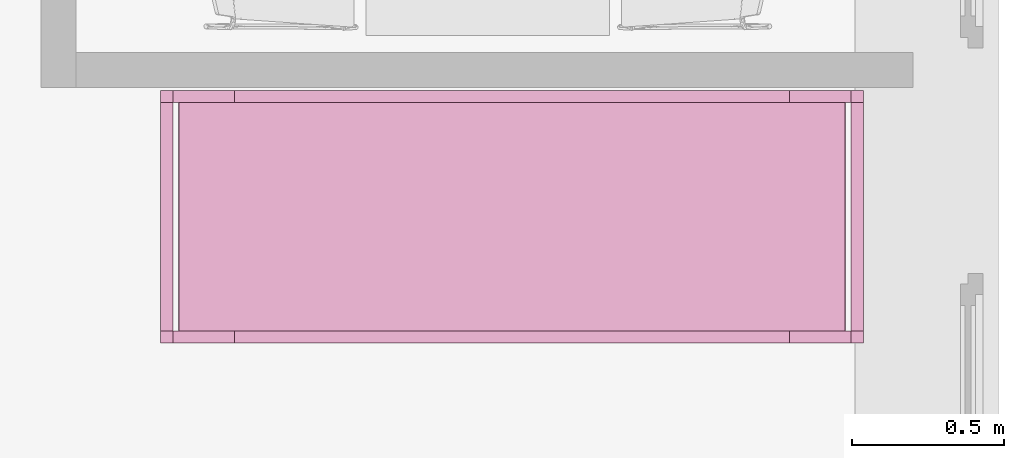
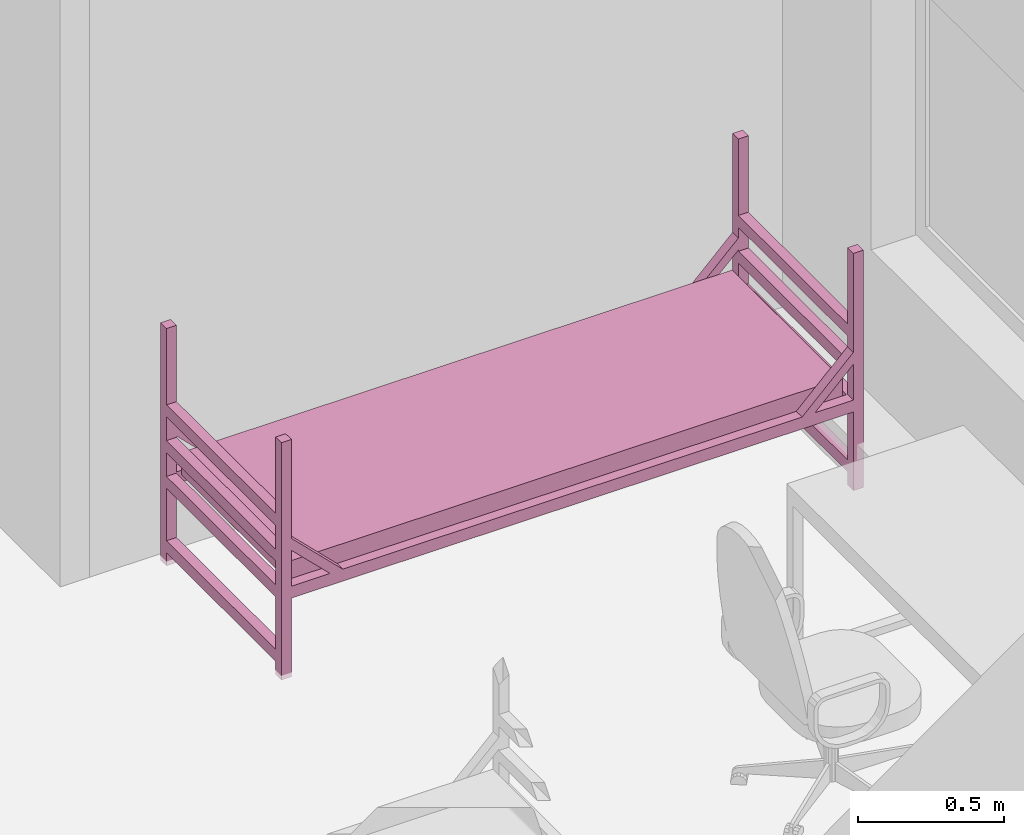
# One storey, part 44 of 48: 1 furnishing.
"""IFC2X3 building model written with IfcOpenShell, lengths in millimetres."""

from ifc_helpers import new_model, entity, si_unit, converted_unit, derived_unit, direction, frame, frame_2d, origin, place, context, subcontext, project, spatial, polyline, circle_curve, parameter, trimmed, segment, composite_curve, rectangle, outline, extrude, source, transform, mapped, material, type_object, type_shapes, element, save


model = new_model("IFC2X3")

# Units and contexts
model_context = context("Model", 3, precision=0.01, world=origin(), true_north=direction((6.12303176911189e-17, 1.0)))
body_context = subcontext(model_context, "Body", "Model", "MODEL_VIEW")
ifc_project = project(units=[si_unit("LENGTHUNIT", "METRE", prefix="MILLI"), si_unit("AREAUNIT", "SQUARE_METRE"), si_unit("VOLUMEUNIT", "CUBIC_METRE"), converted_unit("PLANEANGLEUNIT", "DEGREE", entity("IfcRatioMeasure", 0.0174532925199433), si_unit("PLANEANGLEUNIT", "RADIAN"), dimensions=[0, 0, 0, 0, 0, 0, 0]), si_unit("MASSUNIT", "GRAM", prefix="KILO"), derived_unit("MASSDENSITYUNIT", [(si_unit("MASSUNIT", "GRAM", prefix="KILO"), 1), (si_unit("LENGTHUNIT", "METRE"), -3)]), si_unit("TIMEUNIT", "SECOND"), si_unit("FREQUENCYUNIT", "HERTZ"), si_unit("THERMODYNAMICTEMPERATUREUNIT", "DEGREE_CELSIUS"), derived_unit("THERMALTRANSMITTANCEUNIT", [(si_unit("MASSUNIT", "GRAM", prefix="KILO"), 1), (si_unit("THERMODYNAMICTEMPERATUREUNIT", "KELVIN"), -1), (si_unit("TIMEUNIT", "SECOND"), -3)]), derived_unit("VOLUMETRICFLOWRATEUNIT", [(si_unit("LENGTHUNIT", "METRE"), 3), (si_unit("TIMEUNIT", "SECOND"), -1)]), si_unit("ELECTRICCURRENTUNIT", "AMPERE"), si_unit("ELECTRICVOLTAGEUNIT", "VOLT"), si_unit("POWERUNIT", "WATT"), si_unit("FORCEUNIT", "NEWTON", prefix="KILO"), si_unit("ILLUMINANCEUNIT", "LUX"), si_unit("LUMINOUSFLUXUNIT", "LUMEN"), si_unit("LUMINOUSINTENSITYUNIT", "CANDELA"), derived_unit("USERDEFINED", [(si_unit("MASSUNIT", "GRAM", prefix="KILO"), -1), (si_unit("LENGTHUNIT", "METRE"), -2), (si_unit("TIMEUNIT", "SECOND"), 3), (si_unit("LUMINOUSFLUXUNIT", "LUMEN"), 1)]), derived_unit("LINEARVELOCITYUNIT", [(si_unit("LENGTHUNIT", "METRE"), 1), (si_unit("TIMEUNIT", "SECOND"), -1)]), si_unit("PRESSUREUNIT", "PASCAL"), derived_unit("USERDEFINED", [(si_unit("LENGTHUNIT", "METRE"), -2), (si_unit("MASSUNIT", "GRAM", prefix="KILO"), 1), (si_unit("TIMEUNIT", "SECOND"), -2)]), derived_unit("LINEARFORCEUNIT", [(si_unit("MASSUNIT", "GRAM", prefix="KILO"), 1), (si_unit("LENGTHUNIT", "METRE"), 1), (si_unit("TIMEUNIT", "SECOND"), -2), (si_unit("LENGTHUNIT", "METRE"), -1)]), derived_unit("PLANARFORCEUNIT", [(si_unit("MASSUNIT", "GRAM", prefix="KILO"), 1), (si_unit("LENGTHUNIT", "METRE"), 1), (si_unit("TIMEUNIT", "SECOND"), -2), (si_unit("LENGTHUNIT", "METRE"), -2)])], contexts=[model_context])

# Site, building, storey, space
site_placement = place(None, origin())
site = spatial("IfcSite", under=ifc_project, at=site_placement, Name="Default", CompositionType="ELEMENT")
building_placement = place(site_placement, origin())
building = spatial("IfcBuilding", under=site, at=building_placement, Name="SMA ARH", CompositionType="ELEMENT")
storey_placement = place(building_placement, frame((0.0, 0.0, 6600.0)))
storey = spatial("IfcBuildingStorey", under=building, at=storey_placement, Name="3 Korrus", CompositionType="ELEMENT", Elevation=6599.99999999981)
space_placement = place(storey_placement, origin())
space = spatial("IfcSpace", under=storey, at=space_placement, Name="3-1", CompositionType="ELEMENT", InteriorOrExteriorSpace="INTERNAL")

# Furnishing
ifc_material = material(Name="Madrats")
furniture_type = type_object("IfcFurnitureType", Name="Kasarmu voodi ühekordne 2308x830:Kasarmu voodi ühekordne 2308x830", material=ifc_material)
shared_shape = source(origin(), body_context, "Body", "SweptSolid", [
    extrude(rectangle(XDim=39.9999999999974, YDim=750.000000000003, at=frame_2d((-1.35003119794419e-13, -2.8421709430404e-14), x_axis=(1.0, 0.0))), frame((1.68638457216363, -1226.7969571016, 55.0), z_axis=(0.0, 0.0, 1.0), x_axis=(0.0, -1.0, 0.0)), (0.0, 0.0, 1.0), 49.9999999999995),
    extrude(rectangle(XDim=39.9999999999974, YDim=750.000000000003, at=frame_2d((-1.35003119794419e-13, -2.8421709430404e-14), x_axis=(1.0, 0.0))), frame((1.68638457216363, -1226.7969571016, 325.0), z_axis=(0.0, 0.0, 1.0), x_axis=(0.0, -1.0, 0.0)), (0.0, 0.0, 1.0), 49.9999999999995),
    extrude(rectangle(XDim=39.9999999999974, YDim=750.000000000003, at=frame_2d((-1.35003119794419e-13, -2.8421709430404e-14), x_axis=(1.0, 0.0))), frame((1.68638457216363, -1226.7969571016, 475.0), z_axis=(0.0, 0.0, 1.0), x_axis=(0.0, -1.0, 0.0)), (0.0, 0.0, 1.0), 49.9999999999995),
    extrude(rectangle(XDim=39.9999999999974, YDim=750.000000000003, at=frame_2d((-1.35003119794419e-13, -2.8421709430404e-14), x_axis=(1.0, 0.0))), frame((1.68638457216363, -1226.7969571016, 625.0), z_axis=(0.0, 0.0, 1.0), x_axis=(0.0, -1.0, 0.0)), (0.0, 0.0, 1.0), 50.0000000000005),
    extrude(rectangle(XDim=39.9999999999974, YDim=750.000000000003, at=frame_2d((1.35003119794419e-13, -2.8421709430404e-14), x_axis=(1.0, 0.0))), frame((1.68638457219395, 1041.2030428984, 55.0), z_axis=(0.0, 0.0, 1.0), x_axis=(0.0, -1.0, 0.0)), (0.0, 0.0, 1.0), 50.0000000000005),
    extrude(rectangle(XDim=39.9999999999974, YDim=750.000000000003, at=frame_2d((1.35003119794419e-13, -2.8421709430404e-14), x_axis=(1.0, 0.0))), frame((1.68638457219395, 1041.2030428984, 325.0), z_axis=(0.0, 0.0, 1.0), x_axis=(0.0, -1.0, 0.0)), (0.0, 0.0, 1.0), 50.0000000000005),
    extrude(rectangle(XDim=39.9999999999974, YDim=750.000000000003, at=frame_2d((1.35003119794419e-13, -2.8421709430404e-14), x_axis=(1.0, 0.0))), frame((1.68638457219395, 1041.2030428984, 475.0), z_axis=(0.0, 0.0, 1.0), x_axis=(0.0, -1.0, 0.0)), (0.0, 0.0, 1.0), 50.0000000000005),
    extrude(rectangle(XDim=39.9999999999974, YDim=750.000000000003, at=frame_2d((1.35003119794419e-13, -2.8421709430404e-14), x_axis=(1.0, 0.0))), frame((1.68638457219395, 1041.2030428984, 625.0), z_axis=(0.0, 0.0, 1.0), x_axis=(0.0, -1.0, 0.0)), (0.0, 0.0, 1.0), 49.9999999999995),
    extrude(outline(composite_curve([segment(trimmed(circle_curve(frame_2d((1085.0, -40.0), x_axis=(1.0, 0.0)), 10.0), [parameter(270.0)], [parameter(0.0)], True, "PARAMETER"), True, "CONTINUOUS"), segment(polyline([(1095.0, -40.0), (1095.0, 40.0)]), True, "CONTINUOUS"), segment(trimmed(circle_curve(frame_2d((1085.0, 40.0), x_axis=(1.0, 0.0)), 10.0), [parameter(0.0)], [parameter(90.0000000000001)], True, "PARAMETER"), True, "CONTINUOUS"), segment(polyline([(1085.0, 50.0), (-1085.0, 50.0)]), True, "CONTINUOUS"), segment(trimmed(circle_curve(frame_2d((-1085.0, 40.0), x_axis=(1.0, 0.0)), 10.0), [parameter(90.0000000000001)], [parameter(180.0)], True, "PARAMETER"), True, "CONTINUOUS"), segment(polyline([(-1095.0, 40.0), (-1095.0, -40.0)]), True, "CONTINUOUS"), segment(trimmed(circle_curve(frame_2d((-1085.0, -40.0), x_axis=(1.0, 0.0)), 10.0), [parameter(180.0)], [parameter(270.0)], True, "PARAMETER"), True, "CONTINUOUS"), segment(polyline([(-1085.0, -50.0), (1085.0, -50.0)]), True, "CONTINUOUS")], self_intersect=False)), frame((-373.313615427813, -92.7969571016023, 405.0), z_axis=(1.0, 0.0, 0.0), x_axis=(0.0, -1.0, 0.0)), (0.0, 0.0, 1.0), 750.000000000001),
    extrude(outline(polyline([(-1114.0, -100.0), (1114.0, -100.0), (1114.0, -50.0), (961.59199141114, -50.0), (1114.0, 100.0), (1114.0, 150.0), (910.789321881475, -50.0), (-910.789321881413, -50.0), (-1114.0, 150.0), (-1114.0, 100.0), (-961.591991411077, -50.0), (-1114.0, -50.0), (-1114.0, -100.0)])), frame((-413.313615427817, -92.7969571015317, 430.0), z_axis=(1.0, 0.0, 0.0), x_axis=(0.0, 1.0, 0.0)), (0.0, 0.0, 1.0), 39.9999999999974),
    extrude(outline(polyline([(-1114.0, -100.0), (1114.0, -100.0), (1114.0, -50.0), (961.591991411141, -50.0), (1114.0, 100.0), (1114.0, 150.0), (910.789321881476, -50.0), (-910.789321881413, -50.0), (-1114.0, 150.0), (-1114.0, 100.0), (-961.591991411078, -50.0), (-1114.0, -50.0), (-1114.0, -100.0)])), frame((376.686384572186, -92.796957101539, 430.0), z_axis=(1.0, 0.0, 0.0), x_axis=(0.0, 1.0, 0.0)), (0.0, 0.0, 1.0), 39.9999999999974),
    extrude(rectangle(XDim=39.9999999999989, YDim=39.9999999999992, at=frame_2d((-6.75015598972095e-14, 0.0), x_axis=(1.0, 0.0))), frame((396.686384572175, -1226.79695710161, 0.0), z_axis=(0.0, 0.0, 1.0), x_axis=(0.0, 1.0, 0.0)), (0.0, 0.0, 1.0), 995.0),
    extrude(rectangle(XDim=39.9999999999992, YDim=39.9999999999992, at=frame_2d((-1.35003119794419e-13, 0.0), x_axis=(1.0, 0.0))), frame((396.686384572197, 1041.20304289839, 0.0), z_axis=(0.0, 0.0, 1.0), x_axis=(0.0, 1.0, 0.0)), (0.0, 0.0, 1.0), 995.0),
    extrude(rectangle(XDim=40.0000000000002, YDim=39.9999999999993, at=frame_2d((-1.35003119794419e-13, 0.0), x_axis=(1.0, 0.0))), frame((-393.313615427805, 1041.2030428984, 0.0), z_axis=(0.0, 0.0, 1.0), x_axis=(0.0, 1.0, 0.0)), (0.0, 0.0, 1.0), 995.0),
    extrude(rectangle(XDim=39.9999999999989, YDim=39.9999999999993, at=frame_2d((-6.75015598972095e-14, 0.0), x_axis=(1.0, 0.0))), frame((-393.313615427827, -1226.7969571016, 0.0), z_axis=(0.0, 0.0, 1.0), x_axis=(0.0, 1.0, 0.0)), (0.0, 0.0, 1.0), 995.0),
])
type_shapes(furniture_type, [shared_shape])
furnishing_placement = place(space_placement, frame((37180.0, 2614.0, 0.0), z_axis=(0.0, 0.0, 1.0), x_axis=(0.0, 1.0, 0.0)))
element("IfcFurnishingElement", 1, at=furnishing_placement, inside=space, type_object=furniture_type, material=ifc_material, Name="Kasarmu voodi ühekordne 2308x830:Kasarmu voodi ühekordne 2308x830", ObjectType="Kasarmu voodi ühekordne 2308x830:Kasarmu voodi ühekordne 2308x830", context=body_context, shape_type="MappedRepresentation", body=[
    mapped(shared_shape, transform((0.0, 0.0, 0.0), scale=1.0)),
])

save(model, "model.ifc")
